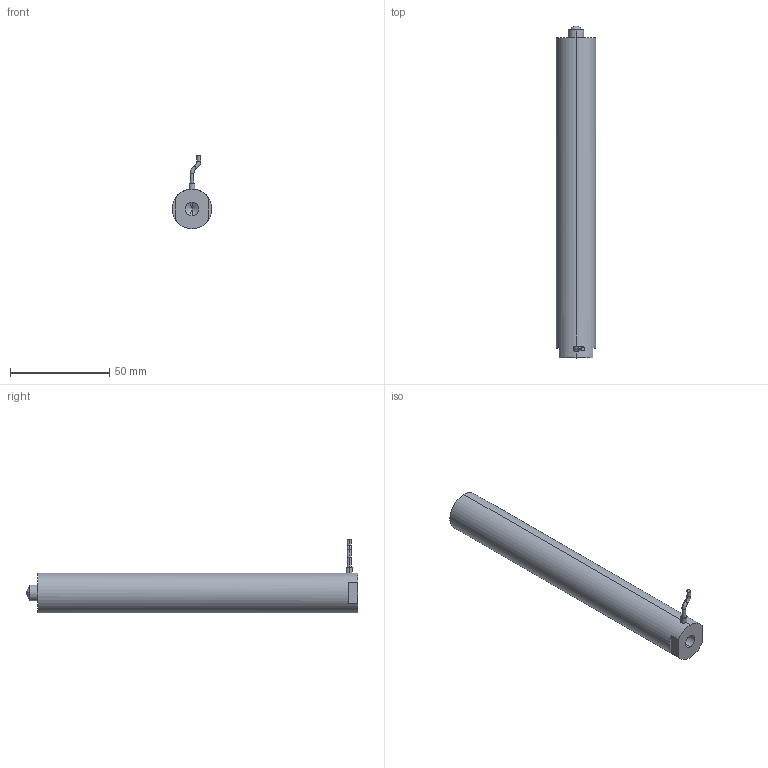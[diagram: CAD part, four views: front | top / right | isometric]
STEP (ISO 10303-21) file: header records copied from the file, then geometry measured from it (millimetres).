
FILE_DESCRIPTION (( 'STEP AP203' ), '1' );
FILE_NAME ('球头式160VS20.STEP', '2021-07-08T05:56:18', ( '微软用户' ), ( '微软公司' ), 'SwSTEP 2.0', 'SolidWorks 2016', '' );
FILE_SCHEMA (( 'CONFIG_CONTROL_DESIGN' ));
Products named in the file (1): ⑩芛宒160VS20
Bounding box: 20 x 167 x 37.06 mm (x, y, z)
Volume: 50357.2 mm3; surface area: 11216.7 mm2
Topology: 1 solids, 1 shells, 939 faces, 2540 edges, 1688 vertices
Faces by surface type: bspline 521, plane 305, cylinder 105, torus 4, sphere 2, cone 2
Entity records: 45391 total; most frequent: CARTESIAN_POINT 26405, ORIENTED_EDGE 5068, EDGE_CURVE 2534, DIRECTION 1918, B_SPLINE_CURVE_WITH_KNOTS 1722, VERTEX_POINT 1686, EDGE_LOOP 1028, FACE_OUTER_BOUND 939
